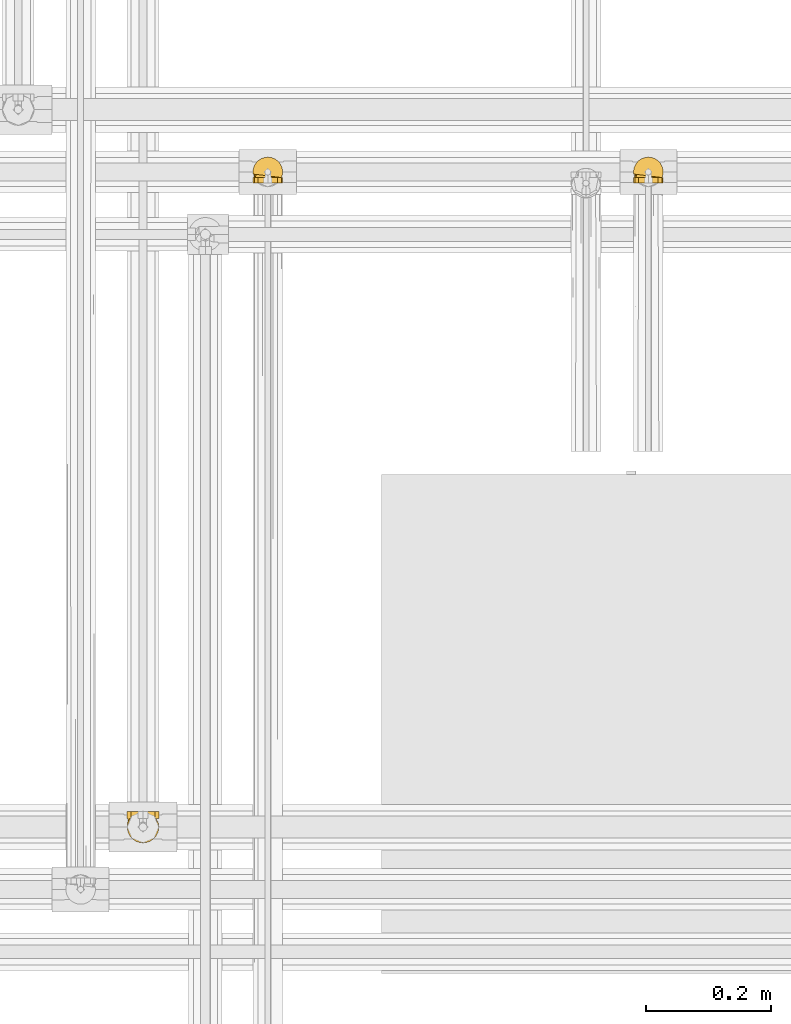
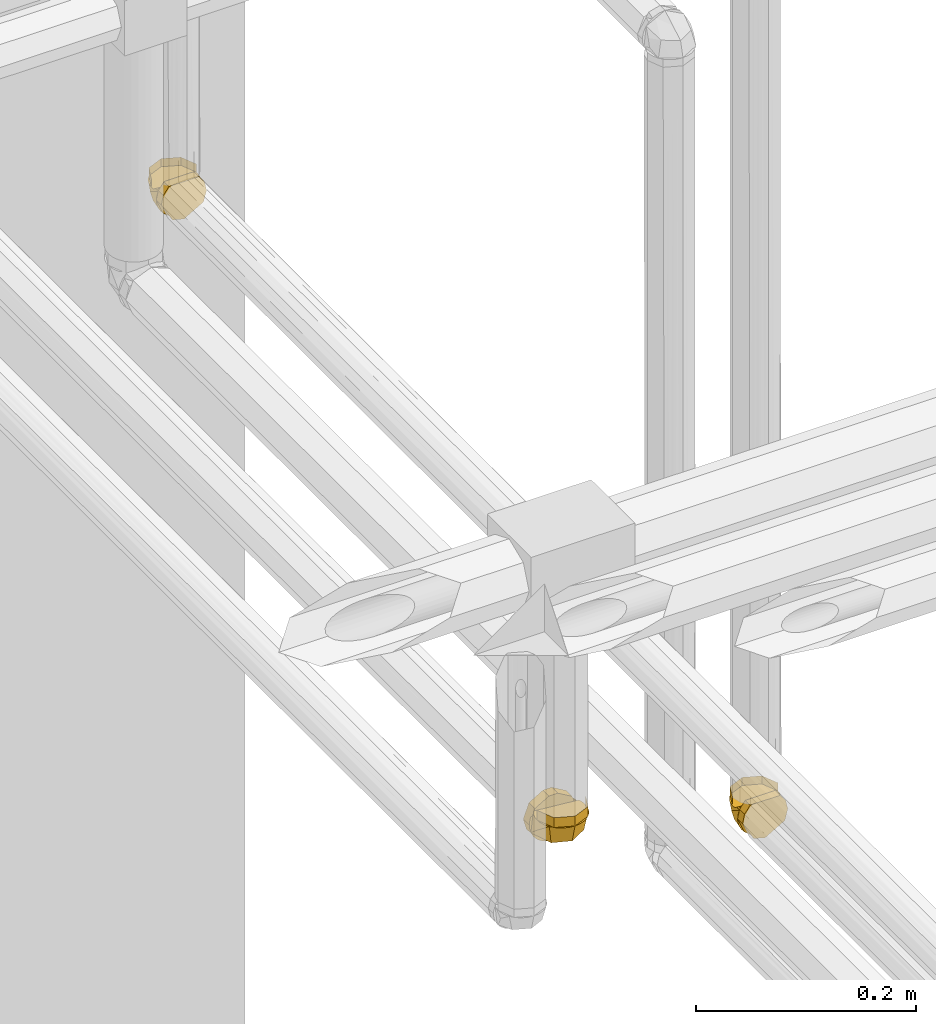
# One storey, part 339 of 652: 3 coverings.
"""IFC2X3 building model written with IfcOpenShell, lengths in millimetres."""

from ifc_helpers import new_model, entity, si_unit, converted_unit, direction, frame, origin, place, context, subcontext, project, spatial, face_set, surface_model, material, type_object, element, save


model = new_model("IFC2X3")

# Units and contexts
model_context = context("Model", 3, precision=0.01, world=frame((0.0, 0.0, 308426.39999999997)), true_north=direction((6.123233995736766e-17, 1.0)))
plan_context = context("Plan", 3, precision=0.01, world=frame((0.0, 0.0, 308426.39999999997)), true_north=direction((6.123233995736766e-17, 1.0)))
body_context = subcontext(model_context, "Body", "Model", "MODEL_VIEW")
ifc_project = project(units=[si_unit("LENGTHUNIT", "METRE", prefix="MILLI"), si_unit("AREAUNIT", "SQUARE_METRE"), si_unit("VOLUMEUNIT", "CUBIC_METRE"), converted_unit("PLANEANGLEUNIT", "DEGREE", entity("IfcPlaneAngleMeasure", 0.017453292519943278), si_unit("PLANEANGLEUNIT", "RADIAN"), dimensions=[0, 0, 0, 0, 0, 0, 0])], contexts=[model_context, plan_context])

# Site, building, storey
site_placement = place(None, origin())
site = spatial("IfcSite", under=ifc_project, at=site_placement, Name="Default", CompositionType="ELEMENT")
building_placement = place(site_placement, origin())
building = spatial("IfcBuilding", under=site, at=building_placement, CompositionType="ELEMENT")
storey_placement = place(building_placement, frame((0.0, 0.0, 1730.6999999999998)))
storey = spatial("IfcBuildingStorey", under=building, at=storey_placement, Name="EG_Produktion_FFB", CompositionType="ELEMENT", Elevation=1730.6999999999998)

# Coverings
ifc_material = material(Name="Dämmung - Armaflex-Schlauch")
covering_type = type_object("IfcCoveringType", Name="Rohrdämmung außen:Armaflex-Schlauch", PredefinedType="INSULATION")
covering_1_placement = place(storey_placement, frame((34604.6422277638, 60980.61107910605, 2674.642227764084)))
element("IfcCovering", 1, at=covering_1_placement, inside=storey, type_object=covering_type, material=ifc_material, Name="Rohrdämmung außen:Armaflex-Schlauch", ObjectType="Rohrdämmung außen:Armaflex-Schlauch", PredefinedType="INSULATION", context=body_context, shape_type="SurfaceModel", body=[
    surface_model("IfcFaceBasedSurfaceModel", [(47.37827577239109, 10.458420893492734, 34.28827223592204), (48.885203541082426, 16.054796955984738, 34.28827223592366), (48.99253247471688, 21.84951324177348, 34.288272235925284), (47.69387779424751, 27.497853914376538, 34.288272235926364), (45.06649381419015, 32.66381072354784, 34.28827223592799), (41.26667824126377, 37.04007144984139, 34.28827223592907), (36.520474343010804, 40.36630128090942, 34.28827223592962), (31.11022409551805, 42.44462959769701, 34.2882722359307), (25.357772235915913, 43.151420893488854, 34.2882722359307), (19.605320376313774, 42.44462959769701, 34.2882722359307), (14.19507012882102, 40.36630128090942, 34.28827223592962), (9.448866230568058, 37.04007144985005, 34.28827223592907), (5.649050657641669, 32.66381072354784, 34.28827223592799), (3.0216666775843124, 27.497853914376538, 34.288272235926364), (1.7230119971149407, 21.84951324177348, 34.288272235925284), (1.8303409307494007, 16.054796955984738, 34.28827223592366), (3.3372686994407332, 10.458420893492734, 34.28827223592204), (1.8303409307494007, 10.458420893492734, 28.691896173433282), (1.7230119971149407, 10.458420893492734, 22.897179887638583), (3.0216666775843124, 10.458420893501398, 17.248839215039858), (5.649050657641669, 10.458420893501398, 12.08288240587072), (9.448866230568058, 10.458420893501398, 7.706621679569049), (14.19507012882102, 10.458420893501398, 4.3803918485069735), (19.605320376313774, 10.458420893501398, 2.3020635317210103), (25.357772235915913, 10.458420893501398, 1.5952722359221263), (31.11022409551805, 10.458420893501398, 2.3020635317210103), (36.520474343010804, 10.458420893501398, 4.3803918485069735), (41.26667824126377, 10.458420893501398, 7.706621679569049), (45.06649381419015, 10.458420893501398, 12.08288240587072), (47.69387779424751, 10.458420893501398, 17.248839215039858), (48.99253247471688, 10.458420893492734, 22.897179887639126), (48.885203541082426, 10.458420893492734, 28.691896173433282), (47.71704957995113, 18.58187743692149, 19.381296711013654), (41.217446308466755, 30.595097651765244, 16.86720598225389), (46.23574464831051, 10.456791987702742, 23.31448686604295), (35.09688966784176, 37.96674071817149, 34.288235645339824), (25.357949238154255, 38.77134276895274, 17.94184968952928), (35.21316164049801, 10.456791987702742, 6.839039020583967), (25.357949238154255, 23.52576171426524, 9.140061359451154), (48.57513673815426, 22.52582274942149, 27.208144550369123), (46.22179201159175, 21.563090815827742, 34.288235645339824), (2.9988488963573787, 18.58187743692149, 19.381296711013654), (2.1407617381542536, 22.52582274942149, 27.208144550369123), (9.498452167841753, 30.595097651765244, 16.86720598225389), (15.619008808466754, 37.96674071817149, 34.288235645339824), (4.480153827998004, 10.456791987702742, 23.31448686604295), (15.619008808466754, 10.456791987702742, 6.778286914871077), (25.357949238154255, 24.614067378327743, 9.768511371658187), (4.4941064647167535, 21.563090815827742, 34.288235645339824), (49.11928957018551, 19.39113036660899, 43.308033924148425), (49.11928957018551, 19.39113036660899, 34.288235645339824), (42.15924928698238, 36.19010497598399, 34.288235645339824), (42.15924928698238, 36.19010497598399, 43.308033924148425), (25.357949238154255, 43.15247069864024, 34.288235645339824), (25.357949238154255, 43.15247069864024, 43.308033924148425), (8.554323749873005, 36.19010497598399, 34.288235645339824), (8.554323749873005, 36.19010497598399, 43.308033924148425), (1.5942834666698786, 19.39113036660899, 34.288235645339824), (1.5942834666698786, 19.39113036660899, 43.308033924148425), (4.565584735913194, 1.4386708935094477, 20.213040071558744), (7.53589723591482, 1.4386708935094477, 15.06830790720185), (10.506209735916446, 1.4386708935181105, 9.923575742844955), (13.47652223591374, 1.4386708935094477, 4.7788435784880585), (19.417147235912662, 1.4386708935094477, 3.1870579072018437), (25.357772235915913, 1.4386708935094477, 1.595272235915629), (30.50250440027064, 1.4386708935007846, 4.565584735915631), (35.6472365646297, 1.4386708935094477, 7.535897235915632), (40.79196872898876, 1.4386708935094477, 10.506209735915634), (45.93670089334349, 1.4386708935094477, 13.476522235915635), (47.528486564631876, 1.4386708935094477, 19.41714723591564), (49.12027223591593, 1.4386708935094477, 25.35777223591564), (48.07242355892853, 1.4386708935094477, 30.23645211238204), (47.024574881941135, 1.4386708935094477, 35.11513198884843), (44.06585567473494, 1.4386708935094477, 39.13327644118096), (41.10713646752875, 1.4386708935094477, 43.15142089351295), (9.608408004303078, 1.4386708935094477, 43.15142089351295), (6.649688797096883, 1.4386708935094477, 39.13327644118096), (3.690969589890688, 1.4386708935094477, 35.11513198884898), (2.6431209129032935, 1.4386708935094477, 30.23645211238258), (1.5952722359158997, 1.4386708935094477, 25.35777223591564), (8.55514734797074, 10.458420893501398, 8.55514734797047), (6.8151785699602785, 10.458420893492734, 12.755803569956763), (5.0752097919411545, 10.458420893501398, 16.956459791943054), (3.3352410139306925, 10.45842089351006, 21.15711601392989), (1.5952722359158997, 10.458420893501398, 25.35777223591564), (2.6431209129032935, 10.458420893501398, 30.23645211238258), (3.690969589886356, 10.458420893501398, 35.11513198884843), (6.729669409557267, 10.458420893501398, 39.241895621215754), (9.608408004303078, 10.458420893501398, 43.15142089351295), (41.10713646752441, 10.458420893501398, 43.15142089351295), (44.06585567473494, 10.458420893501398, 39.13327644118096), (47.024574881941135, 10.458420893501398, 35.11513198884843), (48.100749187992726, 10.458420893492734, 30.10457078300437), (49.12027223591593, 10.458420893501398, 25.35777223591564), (47.38030345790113, 10.458420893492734, 21.157116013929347), (45.64033467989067, 10.458420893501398, 16.956459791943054), (43.900365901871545, 10.458420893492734, 12.755803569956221), (42.16039712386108, 10.458420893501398, 8.555147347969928), (37.959740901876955, 10.458420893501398, 6.8151785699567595), (33.759084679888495, 10.458420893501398, 5.075209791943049), (29.55842845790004, 10.458420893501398, 3.335241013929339), (25.357772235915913, 10.458420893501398, 1.595272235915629), (21.157116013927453, 10.458420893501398, 3.335241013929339), (16.956459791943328, 10.458420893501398, 5.075209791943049), (12.755803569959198, 10.458420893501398, 6.8151785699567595)], [face_set([[[0, 1, 2, 3, 4, 5, 6, 7, 8, 9, 10, 11, 12, 13, 14, 15]], [[16, 17, 18, 19, 20, 21, 22, 23, 24, 25, 26, 27, 28, 29, 30, 31]], [[32, 28, 33]], [[32, 34, 28]], [[33, 35, 4]], [[35, 33, 36]], [[36, 8, 35]], [[33, 37, 38]], [[39, 4, 40]], [[32, 33, 39]], [[34, 32, 0]], [[4, 39, 33]], [[38, 36, 33]], [[0, 32, 39]], [[33, 28, 37]], [[37, 24, 38]], [[0, 39, 40]], [[41, 16, 42]], [[43, 44, 36]], [[20, 45, 41]], [[46, 43, 47]], [[44, 8, 36]], [[12, 43, 42]], [[44, 43, 12]], [[42, 16, 48]], [[20, 43, 46]], [[16, 41, 45]], [[43, 41, 42]], [[43, 36, 47]], [[47, 24, 46]], [[20, 41, 43]], [[48, 12, 42]]]), face_set([[[49, 50, 51, 52]], [[53, 54, 52, 51]], [[54, 53, 55, 56]], [[57, 58, 56, 55]]]), face_set([[[59, 60, 61, 62, 63, 64, 65, 66, 67, 68, 69, 70, 71, 72, 73, 74, 75, 76, 77, 78, 79]], [[80, 81, 82, 83, 84, 85, 86, 87, 88, 89, 90, 91, 92, 93, 94, 95, 96, 97, 98, 99, 100, 101, 102, 103, 104]], [[75, 74, 89, 88]], [[71, 70, 93, 92, 91, 72]], [[73, 72, 91, 90, 89, 74]], [[96, 67, 97]], [[64, 100, 65]], [[100, 99, 65]], [[69, 95, 94]], [[94, 93, 70]], [[67, 96, 68]], [[66, 99, 98]], [[64, 101, 100]], [[99, 66, 65]], [[70, 69, 94]], [[98, 97, 67]], [[96, 95, 68]], [[69, 68, 95]], [[66, 98, 67]], [[104, 61, 80]], [[79, 83, 59]], [[83, 82, 59]], [[63, 103, 102]], [[102, 101, 64]], [[61, 104, 62]], [[60, 82, 81]], [[79, 84, 83]], [[82, 60, 59]], [[64, 63, 102]], [[81, 80, 61]], [[104, 103, 62]], [[63, 62, 103]], [[60, 81, 61]], [[76, 75, 88, 87, 86, 77]], [[78, 77, 86, 85, 84, 79]]])]),
])
covering_2_placement = place(storey_placement, frame((33994.64222776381, 60980.61107910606, 3574.642227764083)))
element("IfcCovering", 2, at=covering_2_placement, inside=storey, type_object=covering_type, material=ifc_material, Name="Rohrdämmung außen:Armaflex-Schlauch", ObjectType="Rohrdämmung außen:Armaflex-Schlauch", PredefinedType="INSULATION", context=body_context, shape_type="SurfaceModel", body=[
    surface_model("IfcFaceBasedSurfaceModel", [(47.37827577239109, 10.458420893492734, 34.28827223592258), (48.885203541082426, 16.054796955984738, 34.28827223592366), (48.99253247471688, 21.84951324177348, 34.288272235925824), (47.69387779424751, 27.497853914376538, 34.28827223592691), (45.06649381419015, 32.66381072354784, 34.28827223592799), (41.26667824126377, 37.04007144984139, 34.28827223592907), (36.520474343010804, 40.36630128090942, 34.28827223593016), (31.11022409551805, 42.44462959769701, 34.28827223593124), (25.357772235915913, 43.151420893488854, 34.28827223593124), (19.605320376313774, 42.44462959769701, 34.28827223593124), (14.19507012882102, 40.36630128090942, 34.28827223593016), (9.448866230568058, 37.04007144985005, 34.28827223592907), (5.649050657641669, 32.66381072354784, 34.28827223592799), (3.0216666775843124, 27.497853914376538, 34.28827223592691), (1.7230119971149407, 21.84951324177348, 34.288272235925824), (1.8303409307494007, 16.054796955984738, 34.28827223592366), (3.3372686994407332, 10.458420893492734, 34.28827223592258), (1.8303409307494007, 10.458420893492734, 28.691896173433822), (1.7230119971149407, 10.458420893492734, 22.897179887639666), (3.0216666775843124, 10.458420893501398, 17.248839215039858), (5.649050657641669, 10.458420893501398, 12.08288240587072), (9.448866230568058, 10.458420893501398, 7.70662167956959), (14.19507012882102, 10.458420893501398, 4.380391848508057), (19.605320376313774, 10.458420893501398, 2.3020635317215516), (25.357772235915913, 10.458420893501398, 1.5952722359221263), (31.11022409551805, 10.458420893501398, 2.3020635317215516), (36.520474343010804, 10.458420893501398, 4.380391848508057), (41.26667824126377, 10.458420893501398, 7.70662167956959), (45.06649381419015, 10.458420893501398, 12.082882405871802), (47.69387779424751, 10.458420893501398, 17.248839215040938), (48.99253247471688, 10.458420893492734, 22.897179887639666), (48.885203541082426, 10.458420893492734, 28.691896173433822), (47.71707399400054, 18.58187743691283, 19.38159425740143), (41.21747072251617, 30.59509765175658, 16.867212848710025), (46.23576906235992, 10.456791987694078, 23.314493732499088), (35.09691408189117, 37.96674071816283, 34.288242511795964), (25.35797365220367, 38.77134276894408, 17.941565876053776), (35.21318605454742, 10.456791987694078, 6.839336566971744), (25.35797365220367, 23.52576171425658, 9.140358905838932), (48.57516115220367, 22.52582274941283, 27.20786073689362), (46.22181642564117, 21.563090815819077, 34.288242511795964), (2.9988733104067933, 18.58187743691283, 19.38159425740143), (2.140786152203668, 22.52582274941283, 27.20786073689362), (9.498476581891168, 30.59509765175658, 16.867212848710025), (15.616707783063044, 37.96674071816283, 34.288242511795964), (4.480178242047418, 10.456791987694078, 23.314493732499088), (15.616707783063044, 10.456791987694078, 6.778293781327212), (25.35797365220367, 24.614067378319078, 9.768808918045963), (4.4941308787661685, 21.563090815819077, 34.288242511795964), (49.11931398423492, 19.39113036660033, 43.30804079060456), (49.11931398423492, 19.39113036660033, 34.288242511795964), (42.15927370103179, 36.19010497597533, 34.288242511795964), (42.15927370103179, 36.19010497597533, 43.30804079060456), (25.35797365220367, 43.15247069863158, 34.288242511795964), (25.35797365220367, 43.15247069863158, 43.30804079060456), (8.554348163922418, 36.19010497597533, 34.288242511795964), (8.554348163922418, 36.19010497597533, 43.30804079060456), (1.5943078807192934, 19.39113036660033, 34.288242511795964), (1.5943078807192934, 19.39113036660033, 43.30804079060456), (4.565584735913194, 1.4386708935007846, 20.213040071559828), (7.53589723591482, 1.4386708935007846, 15.068307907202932), (10.506209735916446, 1.4386708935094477, 9.923575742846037), (13.47652223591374, 1.4386708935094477, 4.778843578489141), (19.417147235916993, 1.4386708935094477, 3.187057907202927), (25.357772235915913, 1.4386708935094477, 1.595272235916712), (30.502504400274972, 1.4386708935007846, 4.5655847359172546), (35.6472365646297, 1.4386708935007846, 7.535897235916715), (40.791968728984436, 1.4386708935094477, 10.506209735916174), (45.93670089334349, 1.4386708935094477, 13.476522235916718), (47.52848656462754, 1.4386708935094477, 19.417147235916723), (49.12027223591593, 1.4386708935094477, 25.357772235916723), (48.07242355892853, 1.4386708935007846, 30.236452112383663), (47.024574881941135, 1.4386708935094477, 35.11513198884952), (44.06585567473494, 1.4386708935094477, 39.13327644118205), (41.10713646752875, 1.4386708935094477, 43.151420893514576), (9.608408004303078, 1.4386708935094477, 43.151420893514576), (6.649688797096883, 1.4386708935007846, 39.13327644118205), (3.690969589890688, 1.4386708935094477, 35.11513198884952), (2.6431209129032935, 1.4386708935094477, 30.236452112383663), (1.5952722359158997, 1.4386708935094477, 25.357772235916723), (8.55514734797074, 10.458420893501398, 8.555147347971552), (6.815178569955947, 10.458420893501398, 12.755803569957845), (5.075209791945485, 10.458420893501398, 16.956459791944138), (3.3352410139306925, 10.45842089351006, 21.157116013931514), (1.5952722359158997, 10.458420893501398, 25.357772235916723), (2.6431209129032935, 10.458420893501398, 30.236452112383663), (3.690969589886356, 10.458420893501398, 35.1151319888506), (6.729669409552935, 10.458420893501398, 39.241895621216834), (9.608408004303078, 10.458420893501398, 43.151420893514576), (41.10713646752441, 10.458420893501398, 43.151420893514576), (44.06585567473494, 10.458420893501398, 39.13327644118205), (47.024574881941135, 10.458420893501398, 35.1151319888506), (48.100749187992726, 10.458420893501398, 30.104570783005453), (49.12027223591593, 10.458420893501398, 25.357772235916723), (47.38030345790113, 10.458420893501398, 21.15711601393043), (45.64033467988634, 10.458420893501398, 16.956459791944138), (43.900365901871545, 10.458420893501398, 12.755803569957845), (42.16039712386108, 10.458420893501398, 8.555147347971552), (37.95974090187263, 10.458420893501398, 6.815178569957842), (33.759084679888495, 10.458420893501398, 5.075209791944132), (29.55842845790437, 10.458420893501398, 3.335241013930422), (25.357772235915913, 10.458420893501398, 1.595272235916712), (21.157116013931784, 10.458420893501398, 3.335241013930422), (16.956459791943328, 10.458420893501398, 5.075209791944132), (12.755803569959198, 10.458420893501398, 6.815178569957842)], [face_set([[[0, 1, 2, 3, 4, 5, 6, 7, 8, 9, 10, 11, 12, 13, 14, 15]], [[16, 17, 18, 19, 20, 21, 22, 23, 24, 25, 26, 27, 28, 29, 30, 31]], [[32, 28, 33]], [[32, 34, 28]], [[33, 35, 4]], [[35, 33, 36]], [[36, 8, 35]], [[33, 37, 38]], [[39, 4, 40]], [[32, 33, 39]], [[34, 32, 0]], [[4, 39, 33]], [[38, 36, 33]], [[0, 32, 39]], [[33, 28, 37]], [[37, 24, 38]], [[0, 39, 40]], [[41, 16, 42]], [[43, 44, 36]], [[20, 45, 41]], [[46, 43, 47]], [[44, 8, 36]], [[12, 43, 42]], [[44, 43, 12]], [[42, 16, 48]], [[20, 43, 46]], [[16, 41, 45]], [[43, 41, 42]], [[43, 36, 47]], [[47, 24, 46]], [[20, 41, 43]], [[48, 12, 42]]]), face_set([[[49, 50, 51, 52]], [[53, 54, 52, 51]], [[54, 53, 55, 56]], [[57, 58, 56, 55]]]), face_set([[[59, 60, 61, 62, 63, 64, 65, 66, 67, 68, 69, 70, 71, 72, 73, 74, 75, 76, 77, 78, 79]], [[80, 81, 82, 83, 84, 85, 86, 87, 88, 89, 90, 91, 92, 93, 94, 95, 96, 97, 98, 99, 100, 101, 102, 103, 104]], [[75, 74, 89, 88]], [[71, 70, 93, 92, 91, 72]], [[73, 72, 91, 90, 89, 74]], [[96, 67, 97]], [[64, 100, 65]], [[100, 99, 65]], [[69, 95, 94]], [[94, 93, 70]], [[67, 96, 68]], [[66, 99, 98]], [[64, 101, 100]], [[99, 66, 65]], [[70, 69, 94]], [[98, 97, 67]], [[96, 95, 68]], [[69, 68, 95]], [[66, 98, 67]], [[104, 61, 80]], [[79, 83, 59]], [[83, 82, 59]], [[63, 103, 102]], [[102, 101, 64]], [[61, 104, 62]], [[60, 82, 81]], [[79, 84, 83]], [[82, 60, 59]], [[64, 63, 102]], [[81, 80, 61]], [[104, 103, 62]], [[63, 62, 103]], [[60, 81, 61]], [[76, 75, 88, 87, 86, 77]], [[78, 77, 86, 85, 84, 79]]])]),
])
covering_3_placement = place(storey_placement, frame((33793.05472776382, 59923.05472775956, 3626.517125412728)))
element("IfcCovering", 3, at=covering_3_placement, inside=storey, type_object=covering_type, material=ifc_material, Name="Rohrdämmung außen:Armaflex-Schlauch", ObjectType="Rohrdämmung außen:Armaflex-Schlauch", PredefinedType="INSULATION", context=body_context, shape_type="SurfaceModel", body=[
    surface_model("IfcFaceBasedSurfaceModel", [(5.861035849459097, 41.019272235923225, -12.443125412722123), (50.77002630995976, 35.60573373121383, -12.44312541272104), (52.14558701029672, 29.696024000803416, -12.443125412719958), (52.07738272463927, 23.628719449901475, -12.443125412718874), (50.56932098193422, 17.75142533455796, -12.443125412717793), (47.70780097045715, 12.40086091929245, -12.443125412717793), (43.656763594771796, 7.883568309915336, -12.443125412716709), (38.648299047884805, 4.458350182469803, -12.443125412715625), (32.96935000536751, 2.3214425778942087, -12.443125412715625), (26.94527223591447, 1.5952722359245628, -12.443125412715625), (20.92119446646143, 2.3214425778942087, -12.443125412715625), (15.242245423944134, 4.458350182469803, -12.443125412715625), (10.233780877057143, 7.883568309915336, -12.443125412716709), (6.1827435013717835, 12.40086091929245, -12.443125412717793), (3.3212234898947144, 17.75142533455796, -12.443125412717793), (1.8131617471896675, 23.628719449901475, -12.443125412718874), (1.744957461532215, 29.696024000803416, -12.443125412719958), (3.120518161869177, 35.60573373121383, -12.44312541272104), (48.02950862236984, 41.019272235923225, -12.443125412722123), (3.120518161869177, 41.019272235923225, -17.856663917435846), (1.744957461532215, 41.019272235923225, -23.766373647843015), (1.8131617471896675, 41.019272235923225, -29.83367819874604), (3.3212234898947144, 41.019272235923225, -35.71097231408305), (6.1827435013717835, 41.01927223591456, -41.06153672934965), (10.233780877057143, 41.01927223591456, -45.57882933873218), (15.242245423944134, 41.01927223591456, -49.00404746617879), (20.92119446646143, 41.01927223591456, -51.14095507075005), (26.94527223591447, 41.01927223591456, -51.86712541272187), (32.96935000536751, 41.01927223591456, -51.14095507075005), (38.648299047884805, 41.01927223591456, -49.00404746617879), (43.656763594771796, 41.01927223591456, -45.57882933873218), (47.70780097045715, 41.01927223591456, -41.06153672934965), (50.56932098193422, 41.019272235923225, -35.71097231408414), (52.07738272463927, 41.019272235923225, -29.83367819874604), (52.14558701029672, 41.019272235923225, -23.766373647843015), (50.77002630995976, 41.019272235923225, -17.856663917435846), (1.835958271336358, 29.871859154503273, -26.01230363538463), (10.105220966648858, 16.063399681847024, -34.06820726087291), (16.269960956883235, 7.152315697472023, -12.443364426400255), (26.94605348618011, 6.877913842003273, -32.154951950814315), (6.0217492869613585, 26.709261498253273, -12.443364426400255), (15.132821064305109, 41.02001589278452, -43.78912553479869), (26.94605348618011, 23.946639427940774, -42.01132707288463), (4.554396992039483, 41.02001589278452, -24.406006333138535), (52.24450929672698, 28.104525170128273, -21.334682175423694), (45.93326662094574, 18.426046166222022, -33.480452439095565), (37.61982057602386, 41.02001589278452, -46.311645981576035), (36.66173952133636, 8.240621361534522, -12.443364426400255), (51.179458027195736, 31.439205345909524, -31.701491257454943), (49.30050294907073, 29.383516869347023, -12.443364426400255), (47.89826295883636, 41.02001589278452, -24.214157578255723), (1.594112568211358, 26.946456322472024, -1.549843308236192), (1.594112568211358, 26.946456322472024, -12.443364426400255), (9.019240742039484, 9.021969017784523, -12.443364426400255), (9.019240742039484, 9.021969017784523, -1.549843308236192), (26.94605348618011, 1.5945154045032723, -12.443364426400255), (26.94605348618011, 1.5945154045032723, -1.549843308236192), (44.87054079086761, 9.021969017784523, -12.443364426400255), (44.87054079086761, 9.021969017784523, -1.549843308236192), (52.295668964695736, 26.946456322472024, -12.443364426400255), (52.295668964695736, 26.946456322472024, -1.549843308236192), (31.584640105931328, 51.912272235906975, -1.5952722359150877), (39.013228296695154, 51.91227223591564, -5.955160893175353), (46.44181648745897, 51.912272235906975, -10.315049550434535), (49.36854436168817, 51.912272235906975, -18.416087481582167), (52.29527223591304, 51.912272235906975, -26.517125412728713), (49.1265222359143, 51.91227223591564, -32.005561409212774), (45.95777223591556, 51.91227223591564, -37.49399740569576), (42.78902223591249, 51.91227223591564, -42.9824334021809), (39.62027223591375, 51.912272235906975, -48.47086939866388), (33.28277223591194, 51.91227223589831, -50.168997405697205), (26.94527223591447, 51.912272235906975, -51.86712541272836), (21.45683623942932, 51.91227223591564, -48.698375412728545), (15.968400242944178, 51.91227223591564, -45.52962541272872), (10.479964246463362, 51.91227223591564, -42.3608754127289), (4.9915282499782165, 51.912272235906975, -39.192125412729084), (3.293400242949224, 51.91227223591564, -32.85462541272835), (1.5952722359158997, 51.912272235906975, -26.517125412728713), (4.522000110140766, 51.91227223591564, -18.416087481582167), (7.448727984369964, 51.912272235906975, -10.315049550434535), (14.877316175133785, 51.912272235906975, -5.955160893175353), (22.305904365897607, 51.912272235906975, -1.5952722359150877), (44.87042913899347, 41.01927223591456, -44.44228231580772), (46.7266399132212, 41.01927223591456, -39.96099309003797), (48.58285068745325, 41.01927223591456, -35.47970386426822), (50.43906146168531, 41.01927223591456, -30.998414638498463), (52.295272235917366, 41.01927223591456, -26.517125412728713), (49.36854436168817, 41.01927223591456, -18.416087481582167), (46.441816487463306, 41.01927223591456, -10.315049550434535), (39.12922846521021, 41.01927223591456, -6.0232421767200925), (35.356934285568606, 41.01927223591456, -3.8092572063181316), (31.584640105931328, 41.01927223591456, -1.5952722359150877), (22.305904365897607, 41.01927223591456, -1.5952722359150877), (14.877316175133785, 41.01927223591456, -5.955160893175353), (7.448727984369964, 41.01927223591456, -10.315049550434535), (4.567702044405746, 41.01927223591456, -18.28958678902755), (3.0814871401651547, 41.01927223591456, -22.403356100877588), (1.5952722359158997, 41.01927223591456, -26.517125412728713), (3.4514830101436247, 41.01927223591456, -30.998414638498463), (5.307693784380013, 41.01927223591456, -35.47970386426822), (7.1639045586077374, 41.019272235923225, -39.96099309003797), (9.020115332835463, 41.01927223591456, -44.44228231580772), (13.501404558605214, 41.01927223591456, -46.29849309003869), (17.982693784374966, 41.01927223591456, -48.15470386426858), (22.463983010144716, 41.01927223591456, -50.01091463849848), (26.94527223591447, 41.01927223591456, -51.86712541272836), (31.42656146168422, 41.01927223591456, -50.01091463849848), (35.90785068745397, 41.01927223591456, -48.15470386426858), (40.38913991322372, 41.01927223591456, -46.29849309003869)], [face_set([[[0, 1, 2, 3, 4, 5, 6, 7, 8, 9, 10, 11, 12, 13, 14, 15, 16, 17]], [[18, 19, 20, 21, 22, 23, 24, 25, 26, 27, 28, 29, 30, 31, 32, 33, 34, 35]], [[36, 22, 37]], [[37, 38, 13]], [[39, 9, 38]], [[13, 40, 36]], [[39, 38, 37]], [[41, 42, 37]], [[0, 36, 40]], [[43, 22, 36]], [[36, 37, 13]], [[0, 43, 36]], [[37, 22, 41]], [[42, 41, 27]], [[42, 39, 37]], [[44, 4, 45]], [[46, 31, 45]], [[46, 45, 42]], [[47, 9, 39]], [[48, 44, 45]], [[47, 45, 4]], [[18, 49, 44]], [[39, 45, 47]], [[18, 44, 48]], [[31, 50, 48]], [[18, 48, 50]], [[45, 39, 42]], [[42, 27, 46]], [[31, 48, 45]], [[49, 4, 44]]]), face_set([[[51, 52, 53, 54]], [[55, 56, 54, 53]], [[56, 55, 57, 58]], [[59, 60, 58, 57]]]), face_set([[[61, 62, 63, 64, 65, 66, 67, 68, 69, 70, 71, 72, 73, 74, 75, 76, 77, 78, 79, 80, 81]], [[82, 83, 84, 85, 86, 87, 88, 89, 90, 91, 92, 93, 94, 95, 96, 97, 98, 99, 100, 101, 102, 103, 104, 105, 106, 107, 108]], [[61, 81, 92, 91]], [[79, 78, 77, 97, 96, 95, 94]], [[80, 79, 94, 93, 92, 81]], [[100, 74, 101]], [[71, 104, 72]], [[104, 103, 72]], [[76, 99, 98]], [[98, 97, 77]], [[74, 100, 75]], [[73, 103, 102]], [[71, 105, 104]], [[103, 73, 72]], [[77, 76, 98]], [[102, 101, 74]], [[100, 99, 75]], [[76, 75, 99]], [[73, 102, 74]], [[108, 68, 82]], [[65, 85, 66]], [[85, 84, 66]], [[70, 107, 106]], [[106, 105, 71]], [[68, 108, 69]], [[67, 84, 83]], [[65, 86, 85]], [[84, 67, 66]], [[71, 70, 106]], [[83, 82, 68]], [[108, 107, 69]], [[70, 69, 107]], [[67, 83, 68]], [[63, 62, 61, 91, 90, 89, 88]], [[64, 63, 88, 87, 86, 65]]])]),
])

save(model, "model.ifc")
